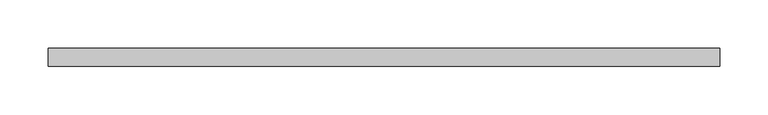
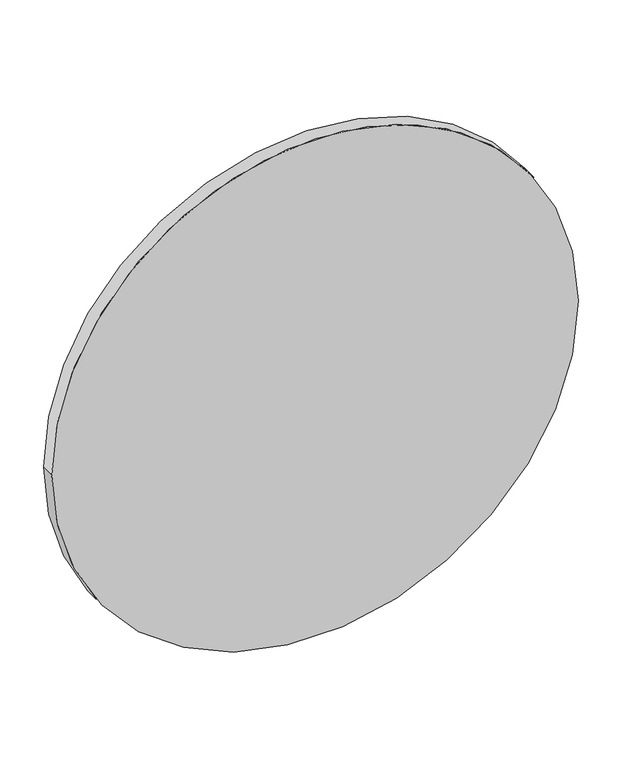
"""IFC4 building model written with IfcOpenShell, lengths in millimetres: proxy geometry, CAMBRIDGE^TABLE 1_60 ROUND-SUB TOP."""

from ifc_helpers import new_model, si_unit, point, frame, origin, origin_2d, place, context, project, spatial, circle_curve, trimmed, segment, composite_curve, outline, extrude, source, transform, mapped, element, save


def generic_models_aae6d9b0(model_context):
    return source(origin(), model_context, "Body", "SweptSolid", [
        extrude(outline(composite_curve([segment(trimmed(circle_curve(origin_2d(), 349.25), [point((0.0, 349.25))], [point((0.0, -349.25))], False, "CARTESIAN"), True, "CONTINUOUS"), segment(trimmed(circle_curve(origin_2d(), 349.25), [point((0.0, -349.25))], [point((0.0, 349.25))], False, "CARTESIAN"), True, "CONTINUOUS")], self_intersect=False)), frame((0.0, -19.05, 0.0), z_axis=(0.0, 1.0, 0.0), x_axis=(0.0, 0.0, 1.0)), (0.0, 0.0, 1.0), 19.05),
    ])


if __name__ == "__main__":
    model = new_model("IFC4")
    model_context = context("Model", 3, world=origin())
    ifc_project = project(units=[si_unit("LENGTHUNIT", "METRE", prefix="MILLI")], contexts=[model_context])
    site = spatial("IfcSite", under=ifc_project)
    building = spatial("IfcBuilding", under=site)
    placement = place(None, origin())
    generic_models_shape = generic_models_aae6d9b0(model_context)
    element("IfcBuildingElementProxy", 1, Name="CAMBRIDGE^TABLE 1_60 ROUND-SUB TOP", ObjectType="CAMBRIDGE^TABLE 1_60 ROUND-SUB TOP", at=placement, inside=building, context=model_context, shape_type="MappedRepresentation", body=[
        mapped(generic_models_shape, transform((0.0, 0.0, 0.0), x_axis=(1.0, 0.0, 0.0), y_axis=(0.0, 1.0, 0.0), z_axis=(0.0, 0.0, 1.0))),
    ])
    save(model, "model.ifc")
